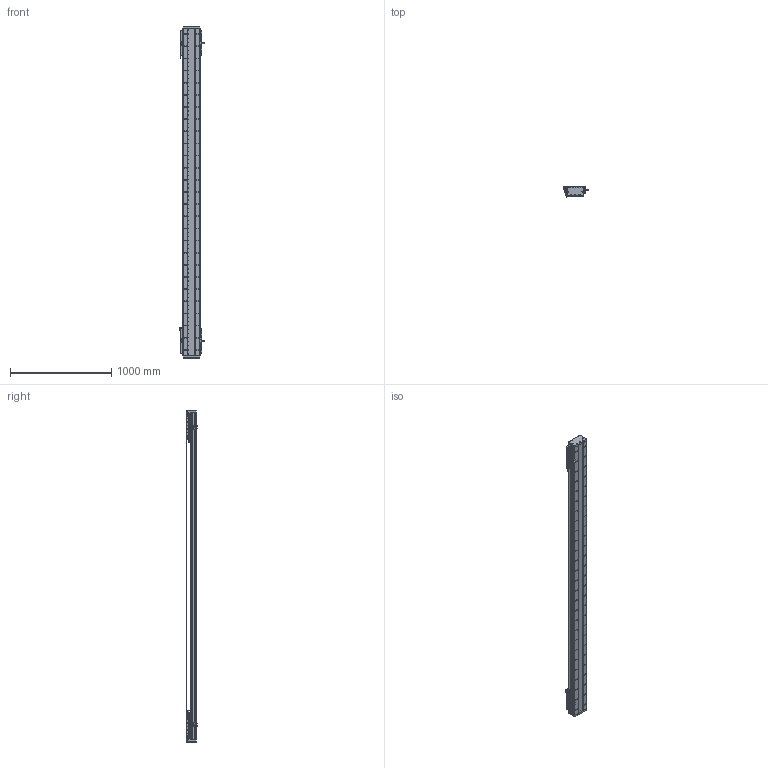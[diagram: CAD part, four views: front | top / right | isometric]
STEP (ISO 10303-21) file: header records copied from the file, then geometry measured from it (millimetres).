
FILE_DESCRIPTION (( 'STEP AP203' ), '1' );
FILE_NAME ('DA-C165-2-C3-T2660-C010-0.2 直线电机.STEP', '2023-06-13T09:14:55', ( '微软用户' ), ( '微软中国' ), 'SwSTEP 2.0', 'SolidWorks 2019', '' );
FILE_SCHEMA (( 'CONFIG_CONTROL_DESIGN' ));
Length unit declared in the file: millimetre
Products named in the file (22): 复件 DMA-010-0.2 读数头^DA-C165-C3-T-C010-0.2-N 直线电机; 复件 66338-1000-006-00 光电感应块^DA-C165-C3-T-C010-0.2-N 直线电机; 葩璃 CKM01-W075-TRL^DA-C165-C3-T-C010-0.2-N 眻盄萇儂; 复件 DA165-GYP-00 光电感应片^DA-C165-C3-T-C010-0.2-N 直线电机; 复件 CU165 底座^IU-CU165-L 底座导轨_L3240; 葩璃 PM-T45^DA-C165-C3-T-C010-0.2-N 眻盄萇儂; 复件 DA95-HXJ-00 缓冲橡胶^DA-C165-C3-T-C010-0.2-N 直线电机; 复件 DA165-GD-DG-H-00 端盖^复件 CU165钢带组件_DA-C165-C3-T-C010-0.2-N 直线电机; DA-C165-2-C3-T2660-C010-0.2 眻盄萇儂; 复件 CU165钢带组件^DA-C165-C3-T-C010-0.2-N 直线电机; 复件 XD-U-02L 磁栅尺^DA-C165-C3-T-C010-0.2-N 直线电机_T; 复件 六角薄螺母 M3^DA-C165-C3-T-C010-0.2-N 直线电机_GB_FASTENER_NUT_STNAB M3-C; IU-CU165-L 菁釱絳寢; 复件 DA165-GDLK-00 钢带拉块^复件 CU165钢带组件_DA-C165-C3-T-C010-0.2-N 直线电机; 葩璃 DA95-GT-T-00^IU-CU165-L 菁釱絳寢_T; 葩璃 PM-Y45^DA-C165-C3-T-C010-0.2-N 眻盄萇儂; 复件 DA126-GYP-ZJ-00 中间光电感应片^DA-C165-C3-T-C010-0.2-N 直线电机; 珨极趙賑雄怢啣C3-wf; 复件 DA165-GDYK-00 钢带压块^复件 CU165钢带组件_DA-C165-C3-T-C010-0.2-N 直线电机; 复件 DKW-HXJ-JY-00 缓冲橡胶^DA-C165-C3-T-C010-0.2-N 直线电机; 葩璃 CKM03-W075-C1C2-TP-3.0^DA-C165-C3-T-C010-0.2-N 眻盄萇儂; 复件 DA165-GD-1860-002-00 钢带盖板^复件 CU165钢带组件_DA-C165-C3-T-C010-0.2-N 直线电机
Assembly tree (45 placements, depth 3):
  DA-C165-2-C3-T2660-C010-0.2 眻盄萇儂
    IU-CU165-L 菁釱絳寢
      复件 CU165 底座^IU-CU165-L 底座导轨_L3240
      葩璃 DA95-GT-T-00^IU-CU165-L 菁釱絳寢_T  x4
    复件 XD-U-02L 磁栅尺^DA-C165-C3-T-C010-0.2-N 直线电机_T
    葩璃 PM-T45^DA-C165-C3-T-C010-0.2-N 眻盄萇儂  x4
    葩璃 CKM01-W075-TRL^DA-C165-C3-T-C010-0.2-N 眻盄萇儂
    复件 CU165钢带组件^DA-C165-C3-T-C010-0.2-N 直线电机
      复件 DA165-GD-DG-H-00 端盖^复件 CU165钢带组件_DA-C165-C3-T-C010-0.2-N 直线电机  x2
      复件 DA165-GDYK-00 钢带压块^复件 CU165钢带组件_DA-C165-C3-T-C010-0.2-N 直线电机  x2
      复件 DA165-GD-1860-002-00 钢带盖板^复件 CU165钢带组件_DA-C165-C3-T-C010-0.2-N 直线电机
      复件 DA165-GDLK-00 钢带拉块^复件 CU165钢带组件_DA-C165-C3-T-C010-0.2-N 直线电机  x2
    复件 DA95-HXJ-00 缓冲橡胶^DA-C165-C3-T-C010-0.2-N 直线电机  x4
    复件 DMA-010-0.2 读数头^DA-C165-C3-T-C010-0.2-N 直线电机  x2
    复件 DA165-GYP-00 光电感应片^DA-C165-C3-T-C010-0.2-N 直线电机  x2
    复件 66338-1000-006-00 光电感应块^DA-C165-C3-T-C010-0.2-N 直线电机
    葩璃 PM-Y45^DA-C165-C3-T-C010-0.2-N 眻盄萇儂
    复件 DA126-GYP-ZJ-00 中间光电感应片^DA-C165-C3-T-C010-0.2-N 直线电机
    葩璃 CKM03-W075-C1C2-TP-3.0^DA-C165-C3-T-C010-0.2-N 眻盄萇儂  x2
    复件 DKW-HXJ-JY-00 缓冲橡胶^DA-C165-C3-T-C010-0.2-N 直线电机  x2
    复件 六角薄螺母 M3^DA-C165-C3-T-C010-0.2-N 直线电机_GB_FASTENER_NUT_STNAB M3-C  x8
    珨极趙賑雄怢啣C3-wf  x2
Bounding box: 247.2 x 111.45 x 3280 mm (x, y, z)
Volume: 20394725.5 mm3; surface area: 5873306.8 mm2
Topology: 121 solids, 221 shells, 6881 faces, 19094 edges, 11938 vertices
Faces by surface type: cylinder 3774, plane 2039, cone 980, torus 80, sphere 8
Entity records: 164306 total; most frequent: CARTESIAN_POINT 45215, ORIENTED_EDGE 24772, DIRECTION 23904, EDGE_CURVE 12386, AXIS2_PLACEMENT_3D 9159, VERTEX_POINT 8092, EDGE_LOOP 5720, LINE 5586
